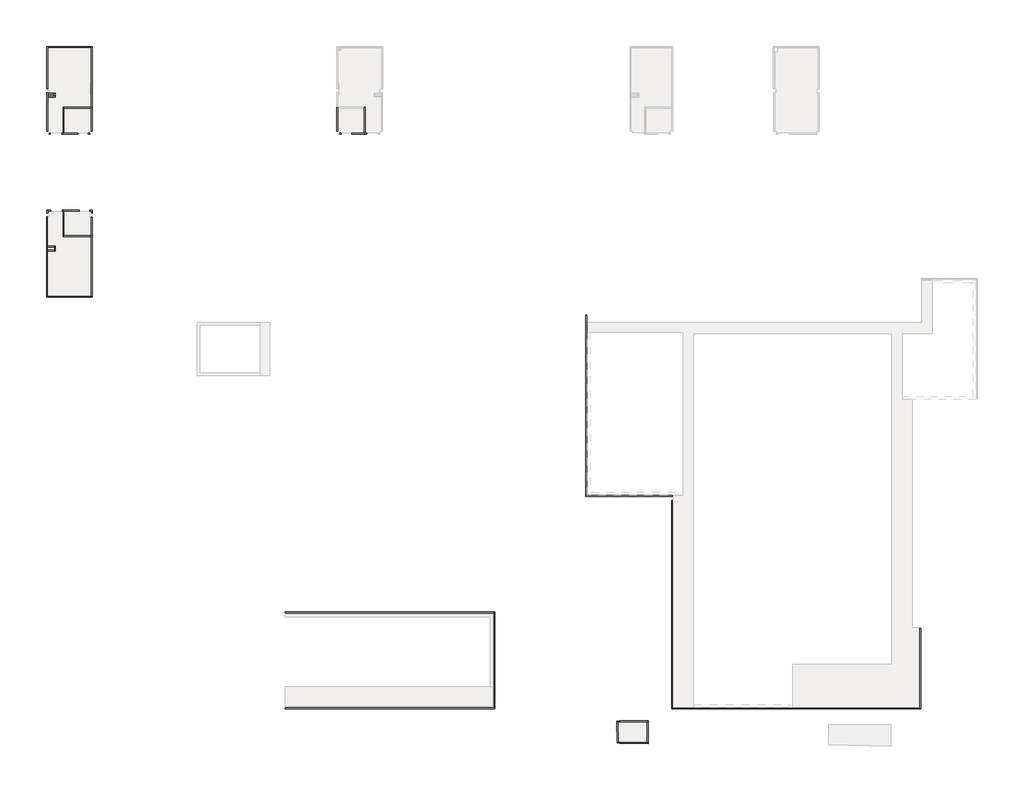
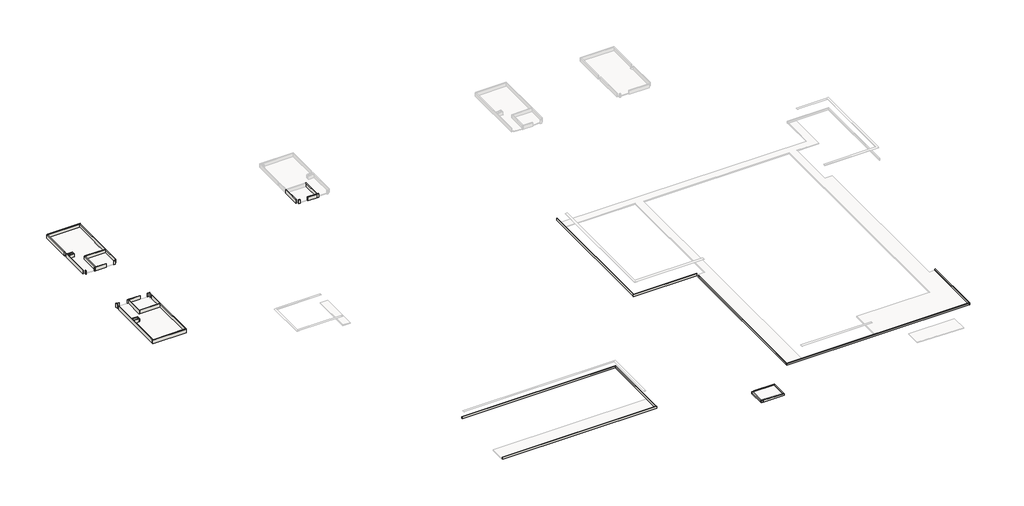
# One storey, part 1 of 2: 48 walls.
"""IFC4 building model written with IfcOpenShell, lengths in millimetres."""

import ifcopenshell
import ifcopenshell.guid

model = None  # the IFC model being written
_history = None  # IfcOwnerHistory: only IFC2X3 demands one
_inside = {}  # id of a spatial element -> (the spatial element, [elements in it])
_under = {}  # id of a project, library or spatial element -> (it, [spatial elements below it])
_declared = {}  # id of a project -> (the project, [libraries it declares])
_typed = {}  # id of a type object -> (the type object, [elements of that type])
_made_of = {}  # id of a material, layer set ... -> (it, [elements and type objects made of it])


def new_model(schema):
    """Start an empty IFC model of exactly this schema.

    Asked for "IFC4X3", IfcOpenShell would pick the latest addendum, in which some entities
    have other attributes; the version numbers below select the first issue.
    IFC2X3 requires an IfcOwnerHistory on every rooted entity: one is made here for all.
    """
    global model, _history
    if schema == "IFC4X3":
        model = ifcopenshell.file(schema_version=(4, 3, 0, 0))
    else:
        model = ifcopenshell.file(schema=schema)
    _inside.clear()
    _under.clear()
    _declared.clear()
    _typed.clear()
    _made_of.clear()
    _history = None
    if model.schema == "IFC2X3":
        org = make("IfcOrganization", Name="unknown")
        user = make(
            "IfcPersonAndOrganization",
            ThePerson=make("IfcPerson", FamilyName="unknown"),
            TheOrganization=org,
        )
        app = make(
            "IfcApplication",
            ApplicationDeveloper=org,
            Version="unknown",
            ApplicationFullName="unknown",
            ApplicationIdentifier="unknown",
        )
        _history = make(
            "IfcOwnerHistory",
            OwningUser=user,
            OwningApplication=app,
            ChangeAction="ADDED",
            CreationDate=0,
        )
    return model


def make(cls, **values):
    """One entity of the class cls with the attributes given. An attribute that is None is left unset."""
    return model.create_entity(
        cls, **{name: value for name, value in values.items() if value is not None}
    )


def rooted(cls, **values):
    """An entity with a GlobalId (a new one), such as an element, a storey or a relation."""
    return make(cls, GlobalId=ifcopenshell.guid.new(), OwnerHistory=_history, **values)


def si_unit(unit_type, name, prefix=None):
    """IfcSIUnit, for example si_unit("LENGTHUNIT", "METRE", prefix="MILLI")."""
    return make("IfcSIUnit", UnitType=unit_type, Prefix=prefix, Name=name)


def assignment(units):
    """IfcUnitAssignment: the units of a project."""
    return None if units is None else make("IfcUnitAssignment", Units=units)


def point(xyz):
    """IfcCartesianPoint."""
    return None if xyz is None else make("IfcCartesianPoint", Coordinates=xyz)


def direction(xyz):
    """IfcDirection."""
    return None if xyz is None else make("IfcDirection", DirectionRatios=xyz)


def frame(location, z_axis=None, x_axis=None):
    """IfcAxis2Placement3D, a coordinate frame: its origin and axes. An axis left out is left unset."""
    return make(
        "IfcAxis2Placement3D",
        Location=point(location),
        Axis=direction(z_axis),
        RefDirection=direction(x_axis),
    )


def origin():
    """The frame at (0, 0, 0) with its axes left unset."""
    return frame((0.0, 0.0, 0.0))


def place(relative_to, where):
    """IfcLocalPlacement: puts the frame where relative to a parent placement (None: the world)."""
    return make(
        "IfcLocalPlacement", PlacementRelTo=relative_to, RelativePlacement=where
    )


def context(
    kind, dimensions, precision=None, world=None, true_north=None, identifier=None
):
    """IfcGeometricRepresentationContext, for example the 3D "Model" context."""
    return make(
        "IfcGeometricRepresentationContext",
        ContextIdentifier=identifier,
        ContextType=kind,
        CoordinateSpaceDimension=dimensions,
        Precision=precision,
        WorldCoordinateSystem=world,
        TrueNorth=true_north,
    )


def project(units=None, contexts=None):
    """IfcProject with its units and contexts."""
    return rooted(
        "IfcProject",
        Name="project",
        RepresentationContexts=contexts,
        UnitsInContext=assignment(units),
    )


def spatial(cls, under=None, at=None, **own):
    """A site, building, storey or space (cls), placed at a placement, below another one or the project."""
    s = rooted(cls, ObjectPlacement=at, **own)
    if under is not None:
        _under.setdefault(under.id(), (under, []))[1].append(s)
    return s


def polyline(points):
    """IfcPolyline through the points."""
    return make("IfcPolyline", Points=[point(p) for p in points])


def outline(outer, holes=None, kind="AREA"):
    """IfcArbitraryClosedProfileDef: a profile drawn as a closed curve; with holes, ...WithVoids."""
    if holes is None:
        return make("IfcArbitraryClosedProfileDef", ProfileType=kind, OuterCurve=outer)
    return make(
        "IfcArbitraryProfileDefWithVoids",
        ProfileType=kind,
        OuterCurve=outer,
        InnerCurves=holes,
    )


def extrude(swept, where, along, depth):
    """IfcExtrudedAreaSolid: the profile swept, set in the frame where, extruded along a direction by depth."""
    return make(
        "IfcExtrudedAreaSolid",
        SweptArea=swept,
        Position=where,
        ExtrudedDirection=direction(along),
        Depth=depth,
    )


def faces_of(points, faces, orient=None, outer=None):
    """IfcFace entities. A face is a list of loops; a loop is a list of indices into points, from 0.

    orient and outer hold one flag for each loop. By default every Orientation is true, the
    first loop of a face is its IfcFaceOuterBound and the others are IfcFaceBound.
    """
    made = []
    for i, loops in enumerate(faces):
        bounds = []
        for j, loop in enumerate(loops):
            is_outer = j == 0 if outer is None else outer[i][j]
            bounds.append(
                make(
                    "IfcFaceOuterBound" if is_outer else "IfcFaceBound",
                    Bound=make("IfcPolyLoop", Polygon=[points[k] for k in loop]),
                    Orientation=True if orient is None else orient[i][j],
                )
            )
        made.append(make("IfcFace", Bounds=bounds))
    return made


def faceted_brep(points, faces, orient=None, outer=None, voids=None):
    """IfcFacetedBrep: a solid bounded by flat faces; with voids (closed shells), ...WithVoids."""
    shared = [point(p) for p in points]
    hull = make("IfcClosedShell", CfsFaces=faces_of(shared, faces, orient, outer))
    if voids is None:
        return make("IfcFacetedBrep", Outer=hull)
    return make(
        "IfcFacetedBrepWithVoids",
        Outer=hull,
        Voids=[
            make(cls, CfsFaces=faces_of(shared, fs, o, b)) for cls, fs, o, b in voids
        ],
    )


def shape(context_of_items, identifier, shape_type, items):
    """IfcShapeRepresentation: the items that make up one representation, for example the "Body"."""
    return make(
        "IfcShapeRepresentation",
        ContextOfItems=context_of_items,
        RepresentationIdentifier=identifier,
        RepresentationType=shape_type,
        Items=items,
    )


def made_of(thing, what):
    """Note that an element or type object is made of a material, layer set ...; save() writes the relation."""
    if what is not None:
        _made_of.setdefault(what.id(), (what, []))[1].append(thing)
    return thing


def element(
    cls,
    number,
    at=None,
    inside=None,
    cuts=None,
    type_object=None,
    material=None,
    context=None,
    identifier="Body",
    shape_type=None,
    held_by="IfcProductDefinitionShape",
    body=None,
    shapes=None,
    **own,
):
    """One element of the class cls, such as IfcWall. Its Tag is "e" and its number.

    at: its placement. inside: the storey or other place that contains it. cuts: it is an
    opening in that element (IfcRelVoidsElement). A single representation is given by context,
    identifier, shape_type and body (its items); several are given by shapes. held_by: the class
    of the entity that holds the representations. save() writes the other relations.
    """
    e = rooted(cls, Tag="e%d" % number, ObjectPlacement=at, **own)
    if body is not None:
        shapes = [shape(context, identifier, shape_type, body)]
    if shapes is not None:
        e.Representation = make(held_by, Representations=shapes)
    if inside is not None:
        _inside.setdefault(inside.id(), (inside, []))[1].append(e)
    if cuts is not None:
        rooted(
            "IfcRelVoidsElement", RelatingBuildingElement=cuts, RelatedOpeningElement=e
        )
    if type_object is not None:
        _typed.setdefault(type_object.id(), (type_object, []))[1].append(e)
    return made_of(e, material)


def aggregate(whole, parts):
    """IfcRelAggregates: a whole, such as a stair, and the parts it consists of."""
    return rooted("IfcRelAggregates", RelatingObject=whole, RelatedObjects=parts)


def save(model, path):
    """Write the relations noted so far, then the file.

    IfcRelAggregates (storeys below a building ...), IfcRelContainedInSpatialStructure (elements
    in a storey), IfcRelDefinesByType, IfcRelAssociatesMaterial and IfcRelDeclares: one each for
    every whole, place, type object, material and project.
    """
    for whole, parts in _under.values():
        aggregate(whole, parts)
    for where, things in _inside.values():
        rooted(
            "IfcRelContainedInSpatialStructure",
            RelatedElements=things,
            RelatingStructure=where,
        )
    for kind, things in _typed.values():
        rooted("IfcRelDefinesByType", RelatedObjects=things, RelatingType=kind)
    for what, things in _made_of.values():
        rooted("IfcRelAssociatesMaterial", RelatedObjects=things, RelatingMaterial=what)
    for by, libraries in _declared.values():
        rooted("IfcRelDeclares", RelatingContext=by, RelatedDefinitions=libraries)
    model.write(path)


model = new_model("IFC4")

# Units and contexts
model_context = context("Model", 3, world=origin())
ifc_project = project(units=[si_unit("LENGTHUNIT", "METRE", prefix="MILLI")], contexts=[model_context])

# Site, building, storey
site = spatial("IfcSite", under=ifc_project)
building = spatial("IfcBuilding", under=site)
storey = spatial("IfcBuildingStorey", under=building, Name="PLANTA DE IMPERMEABILIZAÇÃO - 1° PAV.", Elevation=55900.0)

# Walls
placement = place(None, origin())
element("IfcWall", 1, ObjectType="Áreas frias", at=placement, inside=storey, context=model_context, shape_type="Brep", body=[
    faceted_brep([(-45007.0467035, 28604.3823991, 55900.0), (-41564.549875, 28604.3823991, 55900.0), (-41499.549875, 28604.3823991, 55900.0), (-41499.549875, 28604.3823991, 56300.0), (-41564.549875, 28604.3823991, 56300.0), (-45007.0467035, 28604.3823991, 56300.0), (-45007.0467035, 28669.3823991, 55900.0), (-45007.0467035, 28669.3823991, 56300.0), (-41499.549875, 28669.3823991, 56300.0), (-41499.549875, 28669.3823991, 55900.0), (-45007.0467035, 28668.7226891, 55900.0), (-45007.0467035, 28668.7226891, 56300.0)], [[[0, 1, 2, 3, 4, 5]], [[6, 7, 8, 9]], [[2, 1, 0, 10, 6, 9]], [[5, 4, 3, 8, 7, 11]], [[3, 2, 9, 8]], [[0, 5, 11, 7, 6, 10]]]),
])
element("IfcWall", 2, ObjectType="Áreas frias", at=placement, inside=storey, context=model_context, shape_type="Brep", body=[
    faceted_brep([(-41564.549875, 28604.3823991, 55900.0), (-41564.549875, 23914.3823991, 55900.0), (-41564.549875, 23881.8823991, 55900.0), (-41564.549875, 23881.8823991, 56300.0), (-41564.549875, 23914.3823991, 56300.0), (-41564.549875, 28604.3823991, 56300.0), (-41499.549875, 28604.3823991, 55900.0), (-41499.549875, 28604.3823991, 56300.0), (-41499.549875, 23881.8823991, 56300.0), (-41499.549875, 23881.8823991, 55900.0)], [[[0, 1, 2, 3, 4, 5]], [[6, 7, 8, 9]], [[2, 1, 0, 6, 9]], [[3, 2, 9, 8]], [[5, 4, 3, 8, 7]], [[0, 5, 7, 6]]]),
])
element("IfcWall", 3, ObjectType="Áreas frias", at=placement, inside=storey, context=model_context, shape_type="SweptSolid", body=[
    extrude(outline(polyline([(-41831.0467035, 21873.9418221), (-41706.0467035, 21873.9418221), (-41706.0467035, 21808.9418221), (-41831.0467035, 21808.9418221), (-41831.0467035, 21873.9418221)])), frame((0.0, 0.0, 55900.0), z_axis=(0.0, 0.0, 1.0), x_axis=(1.0, 0.0, 0.0)), (0.0, 0.0, 1.0), 400.0),
])
element("IfcWall", 4, ObjectType="Áreas frias", at=placement, inside=storey, context=model_context, shape_type="Brep", body=[
    faceted_brep([(-42651.0467035, 21869.3823991, 55900.0), (-43727.9504459, 21869.3823991, 55900.0), (-43769.549875, 21869.3823991, 55900.0), (-43769.549875, 21869.3823991, 56300.0), (-43727.9504459, 21869.3823991, 56300.0), (-42651.0467035, 21869.3823991, 56300.0), (-42651.0467035, 21804.3823991, 55900.0), (-42651.0467035, 21804.3823991, 56300.0), (-43769.549875, 21804.3823991, 56300.0), (-43769.549875, 21804.3823991, 55900.0)], [[[0, 1, 2, 3, 4, 5]], [[6, 7, 8, 9]], [[2, 1, 0, 6, 9]], [[3, 2, 9, 8]], [[5, 4, 3, 8, 7]], [[0, 5, 7, 6]]]),
])
element("IfcWall", 5, ObjectType="Áreas frias", at=placement, inside=storey, context=model_context, shape_type="Brep", body=[
    faceted_brep([(-43727.9504459, 21869.3823991, 55900.0), (-43727.9504459, 23849.3823991, 55900.0), (-43727.9504459, 23914.3823991, 55900.0), (-43727.9504459, 23914.3823991, 56300.0), (-43727.9504459, 23849.3823991, 56300.0), (-43727.9504459, 21869.3823991, 56300.0), (-43792.9504459, 21869.3823991, 55900.0), (-43792.9504459, 21869.3823991, 56300.0), (-43792.9504459, 23914.3823991, 56300.0), (-43792.9504459, 23914.3823991, 55900.0), (-43769.549875, 21869.3823991, 55900.0), (-43769.549875, 21869.3823991, 56300.0)], [[[0, 1, 2, 3, 4, 5]], [[6, 7, 8, 9]], [[2, 1, 0, 10, 6, 9]], [[5, 4, 3, 8, 7, 11]], [[0, 5, 11, 7, 6, 10]], [[3, 2, 9, 8]]]),
])
element("IfcWall", 6, ObjectType="Áreas frias", at=placement, inside=storey, context=model_context, shape_type="Brep", body=[
    faceted_brep([(-43727.9504459, 23849.3823991, 55900.0), (-41564.549875, 23849.3823991, 55900.0), (-41564.549875, 23849.3823991, 56300.0), (-43727.9504459, 23849.3823991, 56300.0), (-43727.9504459, 23914.3823991, 55900.0), (-43727.9504459, 23914.3823991, 56300.0), (-41564.549875, 23914.3823991, 56300.0), (-41564.549875, 23914.3823991, 55900.0), (-41564.549875, 23881.8823991, 55900.0), (-41564.549875, 23881.8823991, 56300.0)], [[[0, 1, 2, 3]], [[4, 5, 6, 7]], [[1, 0, 4, 7, 8]], [[3, 2, 9, 6, 5]], [[0, 3, 5, 4]], [[2, 1, 8, 7, 6, 9]]]),
])
element("IfcWall", 7, ObjectType="Áreas frias", at=placement, inside=storey, context=model_context, shape_type="SweptSolid", body=[
    extrude(outline(polyline([(-44869.2485747, 21869.3823991), (-44789.2485747, 21869.3823991), (-44789.2485747, 21804.3823991), (-44869.2485747, 21804.3823991), (-44869.2485747, 21869.3823991)])), frame((0.0, 0.0, 55900.0), z_axis=(0.0, 0.0, 1.0), x_axis=(1.0, 0.0, 0.0)), (0.0, 0.0, 1.0), 400.0),
])
element("IfcWall", 8, ObjectType="Áreas frias", at=placement, inside=storey, context=model_context, shape_type="SweptSolid", body=[
    extrude(outline(polyline([(-45007.0467035, 25054.7226891), (-45007.0467035, 22015.4418221), (-45072.0467035, 22015.4418221), (-45072.0467035, 25054.7226891), (-45007.0467035, 25054.7226891)])), frame((0.0, 0.0, 55900.0), z_axis=(0.0, 0.0, 1.0), x_axis=(1.0, 0.0, 0.0)), (0.0, 0.0, 1.0), 400.0),
])
element("IfcWall", 9, ObjectType="Áreas frias", at=placement, inside=storey, context=model_context, shape_type="Brep", body=[
    faceted_brep([(-45072.0467035, 28668.7226891, 55900.0), (-45072.0467035, 25348.7226891, 55900.0), (-45072.0467035, 25348.7226891, 56300.0), (-45072.0467035, 28668.7226891, 56300.0), (-45007.0467035, 28668.7226891, 55900.0), (-45007.0467035, 28668.7226891, 56300.0), (-45007.0467035, 28604.3823991, 56300.0), (-45007.0467035, 25348.7226891, 56300.0), (-45007.0467035, 25348.7226891, 55900.0), (-45007.0467035, 28604.3823991, 55900.0)], [[[0, 1, 2, 3]], [[4, 5, 6, 7, 8, 9]], [[1, 0, 4, 9, 8]], [[2, 1, 8, 7]], [[3, 2, 7, 6, 5]], [[0, 3, 5, 4]]]),
])
element("IfcWall", 10, ObjectType="Áreas frias", at=placement, inside=storey, context=model_context, shape_type="Brep", body=[
    faceted_brep([(-41499.549875, 9067.7823991, 55900.0), (-41564.549875, 9067.7823991, 55900.0), (-45022.049875, 9067.7823991, 55900.0), (-45087.049875, 9067.7823991, 55900.0), (-45087.049875, 9067.7823991, 56300.0), (-45022.049875, 9067.7823991, 56300.0), (-41564.549875, 9067.7823991, 56300.0), (-41499.549875, 9067.7823991, 56300.0), (-41499.549875, 9002.7823991, 55900.0), (-41499.549875, 9002.7823991, 56300.0), (-45087.049875, 9002.7823991, 56300.0), (-45087.049875, 9002.7823991, 55900.0)], [[[0, 1, 2, 3, 4, 5, 6, 7]], [[8, 9, 10, 11]], [[3, 2, 1, 0, 8, 11]], [[7, 6, 5, 4, 10, 9]], [[4, 3, 11, 10]], [[0, 7, 9, 8]]]),
])
element("IfcWall", 11, ObjectType="Áreas frias", at=placement, inside=storey, context=model_context, shape_type="SweptSolid", body=[
    extrude(outline(polyline([(-45022.049875, 15311.8823991), (-45022.049875, 9067.7823991), (-45087.049875, 9067.7823991), (-45087.049875, 15311.8823991), (-45022.049875, 15311.8823991)])), frame((0.0, 0.0, 55900.0), z_axis=(0.0, 0.0, 1.0), x_axis=(1.0, 0.0, 0.0)), (0.0, 0.0, 1.0), 400.0),
])
element("IfcWall", 12, ObjectType="Áreas frias", at=placement, inside=storey, context=model_context, shape_type="Brep", body=[
    faceted_brep([(-45009.549875, 15611.8823991, 55900.0), (-45009.549875, 15774.3823991, 55900.0), (-45009.549875, 15839.3823991, 55900.0), (-45009.549875, 15839.3823991, 56300.0), (-45009.549875, 15774.3823991, 56300.0), (-45009.549875, 15611.8823991, 56300.0), (-45074.549875, 15611.8823991, 55900.0), (-45074.549875, 15611.8823991, 56300.0), (-45074.549875, 15839.3823991, 56300.0), (-45074.549875, 15839.3823991, 55900.0)], [[[0, 1, 2, 3, 4, 5]], [[6, 7, 8, 9]], [[2, 1, 0, 6, 9]], [[5, 4, 3, 8, 7]], [[0, 5, 7, 6]], [[3, 2, 9, 8]]]),
])
element("IfcWall", 13, ObjectType="Áreas frias", at=placement, inside=storey, context=model_context, shape_type="SweptSolid", body=[
    extrude(outline(polyline([(-44774.549875, 15774.3823991), (-45009.549875, 15774.3823991), (-45009.549875, 15839.3823991), (-44774.549875, 15839.3823991), (-44774.549875, 15774.3823991)])), frame((0.0, 0.0, 55900.0), z_axis=(0.0, 0.0, 1.0), x_axis=(1.0, 0.0, 0.0)), (0.0, 0.0, 1.0), 400.0),
])
element("IfcWall", 14, ObjectType="Áreas frias", at=placement, inside=storey, context=model_context, shape_type="Brep", body=[
    faceted_brep([(-43874.549875, 15774.3823991, 55900.0), (-43792.9504459, 15774.3823991, 55900.0), (-43760.4504459, 15774.3823991, 55900.0), (-43760.4504459, 15774.3823991, 56300.0), (-43792.9504459, 15774.3823991, 56300.0), (-43874.549875, 15774.3823991, 56300.0), (-43874.549875, 15839.3823991, 55900.0), (-43874.549875, 15839.3823991, 56300.0), (-43760.4504459, 15839.3823991, 56300.0), (-43760.4504459, 15839.3823991, 55900.0)], [[[0, 1, 2, 3, 4, 5]], [[6, 7, 8, 9]], [[2, 1, 0, 6, 9]], [[3, 2, 9, 8]], [[5, 4, 3, 8, 7]], [[0, 5, 7, 6]]]),
])
element("IfcWall", 15, ObjectType="Áreas frias", at=placement, inside=storey, context=model_context, shape_type="Brep", body=[
    faceted_brep([(-43792.9504459, 15774.3823991, 55900.0), (-43792.9504459, 13765.2823991, 55900.0), (-43792.9504459, 13765.2823991, 56300.0), (-43792.9504459, 15774.3823991, 56300.0), (-43727.9504459, 15774.3823991, 55900.0), (-43727.9504459, 15774.3823991, 56300.0), (-43727.9504459, 13830.2823991, 56300.0), (-43727.9504459, 13765.2823991, 56300.0), (-43727.9504459, 13765.2823991, 55900.0), (-43727.9504459, 13830.2823991, 55900.0), (-43760.4504459, 15774.3823991, 55900.0), (-43760.4504459, 15774.3823991, 56300.0)], [[[0, 1, 2, 3]], [[4, 5, 6, 7, 8, 9]], [[1, 0, 10, 4, 9, 8]], [[3, 2, 7, 6, 5, 11]], [[0, 3, 11, 5, 4, 10]], [[2, 1, 8, 7]]]),
])
element("IfcWall", 16, ObjectType="Áreas frias", at=placement, inside=storey, context=model_context, shape_type="Brep", body=[
    faceted_brep([(-43727.9504459, 13765.2823991, 55900.0), (-41564.549875, 13765.2823991, 55900.0), (-41564.549875, 13765.2823991, 56300.0), (-43727.9504459, 13765.2823991, 56300.0), (-43727.9504459, 13830.2823991, 55900.0), (-43727.9504459, 13830.2823991, 56300.0), (-41564.549875, 13830.2823991, 56300.0), (-41564.549875, 13830.2823991, 55900.0), (-41564.549875, 13797.7823991, 55900.0), (-41564.549875, 13797.7823991, 56300.0)], [[[0, 1, 2, 3]], [[4, 5, 6, 7]], [[1, 0, 4, 7, 8]], [[3, 2, 9, 6, 5]], [[0, 3, 5, 4]], [[2, 1, 8, 7, 6, 9]]]),
])
element("IfcWall", 17, ObjectType="Áreas frias", at=placement, inside=storey, context=model_context, shape_type="Brep", body=[
    faceted_brep([(-41704.549875, 15774.3823991, 55900.0), (-41552.049875, 15774.3823991, 55900.0), (-41487.049875, 15774.3823991, 55900.0), (-41487.049875, 15774.3823991, 56300.0), (-41552.049875, 15774.3823991, 56300.0), (-41704.549875, 15774.3823991, 56300.0), (-41704.549875, 15839.3823991, 55900.0), (-41704.549875, 15839.3823991, 56300.0), (-41487.049875, 15839.3823991, 56300.0), (-41487.049875, 15839.3823991, 55900.0)], [[[0, 1, 2, 3, 4, 5]], [[6, 7, 8, 9]], [[2, 1, 0, 6, 9]], [[5, 4, 3, 8, 7]], [[0, 5, 7, 6]], [[3, 2, 9, 8]]]),
])
element("IfcWall", 18, ObjectType="Áreas frias", at=placement, inside=storey, context=model_context, shape_type="SweptSolid", body=[
    extrude(outline(polyline([(-41552.049875, 15611.8823991), (-41552.049875, 15774.3823991), (-41487.049875, 15774.3823991), (-41487.049875, 15611.8823991), (-41552.049875, 15611.8823991)])), frame((0.0, 0.0, 55900.0), z_axis=(0.0, 0.0, 1.0), x_axis=(1.0, 0.0, 0.0)), (0.0, 0.0, 1.0), 400.0),
])
element("IfcWall", 19, ObjectType="Áreas frias", at=placement, inside=storey, context=model_context, shape_type="Brep", body=[
    faceted_brep([(-41564.549875, 15306.8823991, 55900.0), (-41564.549875, 13830.2823991, 55900.0), (-41564.549875, 13797.7823991, 55900.0), (-41564.549875, 13797.7823991, 56300.0), (-41564.549875, 13830.2823991, 56300.0), (-41564.549875, 15306.8823991, 56300.0), (-41499.549875, 15306.8823991, 55900.0), (-41499.549875, 15306.8823991, 56300.0), (-41499.549875, 13797.7823991, 56300.0), (-41499.549875, 13797.7823991, 55900.0)], [[[0, 1, 2, 3, 4, 5]], [[6, 7, 8, 9]], [[2, 1, 0, 6, 9]], [[3, 2, 9, 8]], [[5, 4, 3, 8, 7]], [[0, 5, 7, 6]]]),
])
element("IfcWall", 20, ObjectType="Áreas frias", at=placement, inside=storey, context=model_context, shape_type="Brep", body=[
    faceted_brep([(-19968.5467035, 21869.3823991, 55900.0), (-20095.0498031, 21869.3823991, 55900.0), (-20127.5498031, 21869.3823991, 55900.0), (-20127.5498031, 21869.3823991, 56300.0), (-20095.0498031, 21869.3823991, 56300.0), (-19968.5467035, 21869.3823991, 56300.0), (-19968.5467035, 21804.3823991, 55900.0), (-19968.5467035, 21804.3823991, 56300.0), (-20127.5498031, 21804.3823991, 56300.0), (-20127.5498031, 21804.3823991, 55900.0)], [[[0, 1, 2, 3, 4, 5]], [[6, 7, 8, 9]], [[2, 1, 0, 6, 9]], [[3, 2, 9, 8]], [[5, 4, 3, 8, 7]], [[0, 5, 7, 6]]]),
])
element("IfcWall", 21, ObjectType="Áreas frias", at=placement, inside=storey, context=model_context, shape_type="SweptSolid", body=[
    extrude(outline(polyline([(-22100.5467035, 21869.3823991), (-21975.5467035, 21869.3823991), (-21975.5467035, 21804.3823991), (-22100.5467035, 21804.3823991), (-22100.5467035, 21869.3823991)])), frame((0.0, 0.0, 55900.0), z_axis=(0.0, 0.0, 1.0), x_axis=(1.0, 0.0, 0.0)), (0.0, 0.0, 1.0), 400.0),
])
element("IfcWall", 22, ObjectType="Áreas frias", at=placement, inside=storey, context=model_context, shape_type="Brep", body=[
    faceted_brep([(-22247.049875, 22016.4418221, 55900.0), (-22247.049875, 23849.3823991, 55900.0), (-22247.049875, 23881.8823991, 55900.0), (-22247.049875, 23881.8823991, 56300.0), (-22247.049875, 23849.3823991, 56300.0), (-22247.049875, 22016.4418221, 56300.0), (-22312.049875, 22016.4418221, 55900.0), (-22312.049875, 22016.4418221, 56300.0), (-22312.049875, 23881.8823991, 56300.0), (-22312.049875, 23881.8823991, 55900.0)], [[[0, 1, 2, 3, 4, 5]], [[6, 7, 8, 9]], [[2, 1, 0, 6, 9]], [[3, 2, 9, 8]], [[5, 4, 3, 8, 7]], [[0, 5, 7, 6]]]),
])
element("IfcWall", 23, ObjectType="Áreas frias", at=placement, inside=storey, context=model_context, shape_type="Brep", body=[
    faceted_brep([(-20095.0498031, 21869.3823991, 55900.0), (-20095.0498031, 23914.3823991, 55900.0), (-20095.0498031, 23914.3823991, 56300.0), (-20095.0498031, 21869.3823991, 56300.0), (-20160.0498031, 21869.3823991, 55900.0), (-20160.0498031, 21869.3823991, 56300.0), (-20160.0498031, 23849.3823991, 56300.0), (-20160.0498031, 23914.3823991, 56300.0), (-20160.0498031, 23914.3823991, 55900.0), (-20160.0498031, 23849.3823991, 55900.0), (-20127.5498031, 21869.3823991, 55900.0), (-20127.5498031, 21869.3823991, 56300.0)], [[[0, 1, 2, 3]], [[4, 5, 6, 7, 8, 9]], [[1, 0, 10, 4, 9, 8]], [[3, 2, 7, 6, 5, 11]], [[0, 3, 11, 5, 4, 10]], [[2, 1, 8, 7]]]),
])
element("IfcWall", 24, ObjectType="Áreas frias", at=placement, inside=storey, context=model_context, shape_type="Brep", body=[
    faceted_brep([(-26358.2096659, -23282.9176009, 55900.0), (-9925.7096659, -23282.9176009, 55900.0), (-9925.7096659, -23282.9176009, 56100.0), (-26358.2096659, -23282.9176009, 56100.0), (-26358.2096659, -23217.9176009, 55900.0), (-26358.2096659, -23217.9176009, 56100.0), (-9990.7096659, -23217.9176009, 56100.0), (-9925.7096659, -23217.9176009, 56100.0), (-9925.7096659, -23217.9176009, 55900.0), (-9990.7096659, -23217.9176009, 55900.0)], [[[0, 1, 2, 3]], [[4, 5, 6, 7, 8, 9]], [[1, 0, 4, 9, 8]], [[3, 2, 7, 6, 5]], [[0, 3, 5, 4]], [[2, 1, 8, 7]]]),
])
element("IfcWall", 25, ObjectType="Áreas frias", at=placement, inside=storey, context=model_context, shape_type="Brep", body=[
    faceted_brep([(-9925.7096659, -23217.9176009, 55900.0), (-9925.7096659, -15697.9176009, 55900.0), (-9925.7096659, -15697.9176009, 56100.0), (-9925.7096659, -23217.9176009, 56100.0), (-9990.7096659, -23217.9176009, 55900.0), (-9990.7096659, -23217.9176009, 56100.0), (-9990.7096659, -15762.9176009, 56100.0), (-9990.7096659, -15697.9176009, 56100.0), (-9990.7096659, -15697.9176009, 55900.0), (-9990.7096659, -15762.9176009, 55900.0)], [[[0, 1, 2, 3]], [[4, 5, 6, 7, 8, 9]], [[1, 0, 4, 9, 8]], [[3, 2, 7, 6, 5]], [[0, 3, 5, 4]], [[2, 1, 8, 7]]]),
])
element("IfcWall", 26, ObjectType="Áreas frias", at=placement, inside=storey, context=model_context, shape_type="SweptSolid", body=[
    extrude(outline(polyline([(-26358.2096659, -15697.9176009), (-9990.7096659, -15697.9176009), (-9990.7096659, -15762.9176009), (-26358.2096659, -15762.9176009), (-26358.2096659, -15697.9176009)])), frame((0.0, 0.0, 55900.0), z_axis=(0.0, 0.0, 1.0), x_axis=(1.0, 0.0, 0.0)), (0.0, 0.0, 1.0), 200.0),
])
element("IfcWall", 27, ObjectType="Áreas frias", at=placement, inside=storey, context=model_context, shape_type="Brep", body=[
    faceted_brep([(23411.950125, -16975.6176009, 55900.0), (23411.950125, -23243.1176009, 55900.0), (23411.950125, -23308.1176009, 55900.0), (23411.950125, -23308.1176009, 56100.0), (23411.950125, -23243.1176009, 56100.0), (23411.950125, -16975.6176009, 56100.0), (23476.950125, -16975.6176009, 55900.0), (23476.950125, -16975.6176009, 56100.0), (23476.950125, -23308.1176009, 56100.0), (23476.950125, -23308.1176009, 55900.0)], [[[0, 1, 2, 3, 4, 5]], [[6, 7, 8, 9]], [[2, 1, 0, 6, 9]], [[5, 4, 3, 8, 7]], [[0, 5, 7, 6]], [[3, 2, 9, 8]]]),
])
element("IfcWall", 28, ObjectType="Áreas frias", at=placement, inside=storey, context=model_context, shape_type="Brep", body=[
    faceted_brep([(23411.950125, -23243.1176009, 55900.0), (3996.950125, -23243.1176009, 55900.0), (3931.950125, -23243.1176009, 55900.0), (3931.950125, -23243.1176009, 56100.0), (3996.950125, -23243.1176009, 56100.0), (23411.950125, -23243.1176009, 56100.0), (23411.950125, -23308.1176009, 55900.0), (23411.950125, -23308.1176009, 56100.0), (3931.950125, -23308.1176009, 56100.0), (3931.950125, -23308.1176009, 55900.0)], [[[0, 1, 2, 3, 4, 5]], [[6, 7, 8, 9]], [[2, 1, 0, 6, 9]], [[5, 4, 3, 8, 7]], [[0, 5, 7, 6]], [[3, 2, 9, 8]]]),
])
element("IfcWall", 29, ObjectType="Áreas frias", at=placement, inside=storey, context=model_context, shape_type="SweptSolid", body=[
    extrude(outline(polyline([(3996.950125, -6955.6176009), (3996.950125, -23243.1176009), (3931.950125, -23243.1176009), (3931.950125, -6955.6176009), (3996.950125, -6955.6176009)])), frame((0.0, 0.0, 55900.0), z_axis=(0.0, 0.0, 1.0), x_axis=(1.0, 0.0, 0.0)), (0.0, 0.0, 1.0), 200.0),
])
element("IfcWall", 30, ObjectType="Áreas frias", at=placement, inside=storey, context=model_context, shape_type="Brep", body=[
    faceted_brep([(3985.250125, -6559.6176009, 55900.0), (-2722.249875, -6559.6176009, 55900.0), (-2787.249875, -6559.6176009, 55900.0), (-2787.249875, -6559.6176009, 56100.0), (-2722.249875, -6559.6176009, 56100.0), (3985.250125, -6559.6176009, 56100.0), (3985.250125, -6624.6176009, 55900.0), (3985.250125, -6624.6176009, 56100.0), (-2787.249875, -6624.6176009, 56100.0), (-2787.249875, -6624.6176009, 55900.0)], [[[0, 1, 2, 3, 4, 5]], [[6, 7, 8, 9]], [[2, 1, 0, 6, 9]], [[5, 4, 3, 8, 7]], [[0, 5, 7, 6]], [[3, 2, 9, 8]]]),
])
element("IfcWall", 31, ObjectType="Áreas frias", at=placement, inside=storey, context=model_context, shape_type="SweptSolid", body=[
    extrude(outline(polyline([(-2722.249875, 7607.8823991), (-2722.249875, -6559.6176009), (-2787.249875, -6559.6176009), (-2787.249875, 7607.8823991), (-2722.249875, 7607.8823991)])), frame((0.0, 0.0, 55900.0), z_axis=(0.0, 0.0, 1.0), x_axis=(1.0, 0.0, 0.0)), (0.0, 0.0, 1.0), 200.0),
])
element("IfcWall", 32, ObjectType="Áreas frias", at=placement, inside=storey, context=model_context, shape_type="Brep", body=[
    faceted_brep([(-41564.549875, 13797.7823991, 55900.0), (-41564.549875, 13765.2823991, 55900.0), (-41564.549875, 9067.7823991, 55900.0), (-41564.549875, 9067.7823991, 56300.0), (-41564.549875, 13765.2823991, 56300.0), (-41564.549875, 13797.7823991, 56300.0), (-41499.549875, 13797.7823991, 55900.0), (-41499.549875, 13797.7823991, 56300.0), (-41499.549875, 9067.7823991, 56300.0), (-41499.549875, 9067.7823991, 55900.0)], [[[0, 1, 2, 3, 4, 5]], [[6, 7, 8, 9]], [[2, 1, 0, 6, 9]], [[5, 4, 3, 8, 7]], [[0, 5, 7, 6]], [[3, 2, 9, 8]]]),
])
element("IfcWall", 33, ObjectType="Áreas frias", at=placement, inside=storey, context=model_context, shape_type="Brep", body=[
    faceted_brep([(-43760.4504459, 15774.3823991, 55900.0), (-43727.9504459, 15774.3823991, 55900.0), (-42524.549875, 15774.3823991, 55900.0), (-42524.549875, 15774.3823991, 56300.0), (-43727.9504459, 15774.3823991, 56300.0), (-43760.4504459, 15774.3823991, 56300.0), (-43760.4504459, 15839.3823991, 55900.0), (-43760.4504459, 15839.3823991, 56300.0), (-42524.549875, 15839.3823991, 56300.0), (-42524.549875, 15839.3823991, 55900.0)], [[[0, 1, 2, 3, 4, 5]], [[6, 7, 8, 9]], [[2, 1, 0, 6, 9]], [[3, 2, 9, 8]], [[5, 4, 3, 8, 7]], [[0, 5, 7, 6]]]),
])
element("IfcWall", 34, ObjectType="Áreas frias", at=placement, inside=storey, context=model_context, shape_type="SweptSolid", body=[
    extrude(outline(polyline([(-43884.549875, 21869.3823991), (-43769.549875, 21869.3823991), (-43769.549875, 21804.3823991), (-43884.549875, 21804.3823991), (-43884.549875, 21869.3823991)])), frame((0.0, 0.0, 55900.0), z_axis=(0.0, 0.0, 1.0), x_axis=(1.0, 0.0, 0.0)), (0.0, 0.0, 1.0), 400.0),
])
element("IfcWall", 35, ObjectType="Áreas frias", at=placement, inside=storey, context=model_context, shape_type="Brep", body=[
    faceted_brep([(-41564.549875, 23881.8823991, 55900.0), (-41564.549875, 23849.3823991, 55900.0), (-41564.549875, 22016.8823991, 55900.0), (-41564.549875, 22016.8823991, 56300.0), (-41564.549875, 23849.3823991, 56300.0), (-41564.549875, 23881.8823991, 56300.0), (-41499.549875, 23881.8823991, 55900.0), (-41499.549875, 23881.8823991, 56300.0), (-41499.549875, 22016.8823991, 56300.0), (-41499.549875, 22016.8823991, 55900.0)], [[[0, 1, 2, 3, 4, 5]], [[6, 7, 8, 9]], [[2, 1, 0, 6, 9]], [[3, 2, 9, 8]], [[5, 4, 3, 8, 7]], [[0, 5, 7, 6]]]),
])
element("IfcWall", 36, ObjectType="Áreas frias", at=placement, inside=storey, context=model_context, shape_type="Brep", body=[
    faceted_brep([(-20127.5498031, 21869.3823991, 55900.0), (-20160.0498031, 21869.3823991, 55900.0), (-21155.5467035, 21869.3823991, 55900.0), (-21155.5467035, 21869.3823991, 56300.0), (-20160.0498031, 21869.3823991, 56300.0), (-20127.5498031, 21869.3823991, 56300.0), (-20127.5498031, 21804.3823991, 55900.0), (-20127.5498031, 21804.3823991, 56300.0), (-21155.5467035, 21804.3823991, 56300.0), (-21155.5467035, 21804.3823991, 55900.0)], [[[0, 1, 2, 3, 4, 5]], [[6, 7, 8, 9]], [[2, 1, 0, 6, 9]], [[3, 2, 9, 8]], [[5, 4, 3, 8, 7]], [[0, 5, 7, 6]]]),
])
element("IfcWall", 37, ObjectType="Áreas frias", at=placement, inside=storey, context=model_context, shape_type="Brep", body=[
    faceted_brep([(-44392.7841053, 12635.9841137, 55900.0), (-44392.7841053, 12995.9841137, 55900.0), (-44392.7841053, 12995.9841137, 56300.0), (-44392.7841053, 12635.9841137, 56300.0), (-44457.7841053, 12635.9841137, 55900.0), (-44457.7841053, 12635.9841137, 56300.0), (-44457.7841053, 12700.9841137, 56300.0), (-44457.7841053, 12930.9841137, 56300.0), (-44457.7841053, 12995.9841137, 56300.0), (-44457.7841053, 12995.9841137, 55900.0), (-44457.7841053, 12930.9841137, 55900.0), (-44457.7841053, 12700.9841137, 55900.0)], [[[0, 1, 2, 3]], [[4, 5, 6, 7, 8, 9, 10, 11]], [[1, 0, 4, 11, 10, 9]], [[3, 2, 8, 7, 6, 5]], [[2, 1, 9, 8]], [[0, 3, 5, 4]]]),
])
element("IfcWall", 38, ObjectType="Áreas frias", at=placement, inside=storey, context=model_context, shape_type="SweptSolid", body=[
    extrude(outline(polyline([(-44974.549875, 12995.9841137), (-44457.7841053, 12995.9841137), (-44457.7841053, 12930.9841137), (-44974.549875, 12930.9841137), (-44974.549875, 12995.9841137)])), frame((0.0, 0.0, 55900.0), z_axis=(0.0, 0.0, 1.0), x_axis=(1.0, 0.0, 0.0)), (0.0, 0.0, 1.0), 400.0),
])
element("IfcWall", 39, ObjectType="Áreas frias", at=placement, inside=storey, context=model_context, shape_type="SweptSolid", body=[
    extrude(outline(polyline([(-44975.2841053, 12700.9841137), (-44457.7841053, 12700.9841137), (-44457.7841053, 12635.9841137), (-44975.2841053, 12635.9841137), (-44975.2841053, 12700.9841137)])), frame((0.0, 0.0, 55900.0), z_axis=(0.0, 0.0, 1.0), x_axis=(1.0, 0.0, 0.0)), (0.0, 0.0, 1.0), 400.0),
])
element("IfcWall", 40, ObjectType="Áreas frias", at=placement, inside=storey, context=model_context, shape_type="Brep", body=[
    faceted_brep([(-44997.049875, 24719.3823991, 55900.0), (-44407.049875, 24719.3823991, 55900.0), (-44407.049875, 24719.3823991, 56300.0), (-44997.049875, 24719.3823991, 56300.0), (-44997.049875, 24784.3823991, 55900.0), (-44997.049875, 24784.3823991, 56300.0), (-44472.049875, 24784.3823991, 56300.0), (-44407.049875, 24784.3823991, 56300.0), (-44407.049875, 24784.3823991, 55900.0), (-44472.049875, 24784.3823991, 55900.0)], [[[0, 1, 2, 3]], [[4, 5, 6, 7, 8, 9]], [[1, 0, 4, 9, 8]], [[3, 2, 7, 6, 5]], [[0, 3, 5, 4]], [[2, 1, 8, 7]]]),
])
element("IfcWall", 41, ObjectType="Áreas frias", at=placement, inside=storey, context=model_context, shape_type="Brep", body=[
    faceted_brep([(-44407.049875, 24784.3823991, 55900.0), (-44407.049875, 25019.3823991, 55900.0), (-44407.049875, 25019.3823991, 56300.0), (-44407.049875, 24784.3823991, 56300.0), (-44472.049875, 24784.3823991, 55900.0), (-44472.049875, 24784.3823991, 56300.0), (-44472.049875, 24954.3823991, 56300.0), (-44472.049875, 25019.3823991, 56300.0), (-44472.049875, 25019.3823991, 55900.0), (-44472.049875, 24954.3823991, 55900.0)], [[[0, 1, 2, 3]], [[4, 5, 6, 7, 8, 9]], [[1, 0, 4, 9, 8]], [[3, 2, 7, 6, 5]], [[0, 3, 5, 4]], [[2, 1, 8, 7]]]),
])
element("IfcWall", 42, ObjectType="Áreas frias", at=placement, inside=storey, context=model_context, shape_type="SweptSolid", body=[
    extrude(outline(polyline([(-44972.049875, 25019.3823991), (-44472.049875, 25019.3823991), (-44472.049875, 24954.3823991), (-44972.049875, 24954.3823991), (-44972.049875, 25019.3823991)])), frame((0.0, 0.0, 55900.0), z_axis=(0.0, 0.0, 1.0), x_axis=(1.0, 0.0, 0.0)), (0.0, 0.0, 1.0), 400.0),
])
element("IfcWall", 43, ObjectType="Áreas frias", at=placement, inside=storey, context=model_context, shape_type="Brep", body=[
    faceted_brep([(2092.9532965, -25970.4094486, 54800.0), (2092.9532965, -24256.2885111, 54800.0), (2092.9532965, -24256.2885111, 55000.0), (2092.9532965, -25970.4094486, 55000.0), (2027.9532965, -25969.2748694, 54800.0), (2027.9532965, -25969.2748694, 55000.0), (2027.9532965, -24321.2885111, 55000.0), (2027.9532965, -24256.2885111, 55000.0), (2027.9532965, -24256.2885111, 54800.0), (2027.9532965, -24321.2885111, 54800.0)], [[[0, 1, 2, 3]], [[4, 5, 6, 7, 8, 9]], [[1, 0, 4, 9, 8]], [[3, 2, 7, 6, 5]], [[2, 1, 8, 7]], [[0, 3, 5, 4]]]),
])
element("IfcWall", 44, ObjectType="Áreas frias", at=placement, inside=storey, context=model_context, shape_type="Brep", body=[
    faceted_brep([(2027.9532965, -24256.2885111, 54800.0), (-129.8542434, -24256.2885111, 54800.0), (-129.8542434, -24256.2885111, 55000.0), (2027.9532965, -24256.2885111, 55000.0), (2027.9532965, -24321.2885111, 54800.0), (2027.9532965, -24321.2885111, 55000.0), (-129.8542434, -24321.2885111, 55000.0), (-129.8542434, -24321.2885111, 54800.0), (-129.8542434, -24262.3951911, 54800.0), (-129.8542434, -24262.3951911, 55000.0)], [[[0, 1, 2, 3]], [[4, 5, 6, 7]], [[1, 0, 4, 7, 8]], [[2, 1, 8, 7, 6, 9]], [[3, 2, 9, 6, 5]], [[0, 3, 5, 4]]]),
])
element("IfcWall", 45, ObjectType="Áreas frias", at=placement, inside=storey, context=model_context, shape_type="Brep", body=[
    faceted_brep([(-129.8542434, -24262.3951911, 54800.0), (-360.9091562, -24262.3951911, 54800.0), (-360.9091562, -24262.3951911, 55000.0), (-129.8542434, -24262.3951911, 55000.0), (-129.8542434, -24327.3951911, 54800.0), (-129.8542434, -24327.3951911, 55000.0), (-294.5460062, -24327.3951911, 55000.0), (-359.5600062, -24327.3951911, 55000.0), (-359.5600062, -24327.3951911, 54800.0), (-294.5460062, -24327.3951911, 54800.0), (-129.8542434, -24321.2885111, 54800.0), (-129.8542434, -24321.2885111, 55000.0)], [[[0, 1, 2, 3]], [[4, 5, 6, 7, 8, 9]], [[1, 0, 10, 4, 9, 8]], [[3, 2, 7, 6, 5, 11]], [[0, 3, 11, 5, 4, 10]], [[2, 1, 8, 7]]]),
])
element("IfcWall", 46, ObjectType="Áreas frias", at=placement, inside=storey, context=model_context, shape_type="SweptSolid", body=[
    extrude(outline(polyline([(-326.5577221, -25917.3951911), (-359.5600062, -24327.3951911), (-294.5460062, -24327.3951911), (-261.543722, -25917.3951911), (-326.5577221, -25917.3951911)])), frame((0.0, 0.0, 54800.0), z_axis=(0.0, 0.0, 1.0), x_axis=(1.0, 0.0, 0.0)), (0.0, 0.0, 1.0), 200.0),
])
element("IfcWall", 47, ObjectType="Áreas frias", at=placement, inside=storey, context=model_context, shape_type="Brep", body=[
    faceted_brep([(-325.2085721, -25982.3951911, 54800.0), (-132.908105, -25982.3951911, 54800.0), (-132.908105, -25982.3951911, 55000.0), (-325.2085721, -25982.3951911, 55000.0), (-326.5577221, -25917.3951911, 54800.0), (-326.5577221, -25917.3951911, 55000.0), (-261.543722, -25917.3951911, 55000.0), (-132.908105, -25917.3951911, 55000.0), (-132.908105, -25917.3951911, 54800.0), (-261.543722, -25917.3951911, 54800.0)], [[[0, 1, 2, 3]], [[4, 5, 6, 7, 8, 9]], [[1, 0, 4, 9, 8]], [[2, 1, 8, 7]], [[3, 2, 7, 6, 5]], [[0, 3, 5, 4]]]),
])
element("IfcWall", 48, ObjectType="Áreas frias", at=placement, inside=storey, context=model_context, shape_type="Brep", body=[
    faceted_brep([(-122.1194401, -25996.7551115, 54800.0), (2092.9532965, -26035.4193499, 54800.0), (2092.9532965, -26035.4193499, 55000.0), (-122.1194401, -25996.7551115, 55000.0), (-120.9850337, -25931.7650113, 54800.0), (-120.9850337, -25931.7650113, 55000.0), (2027.9532965, -25969.2748694, 55000.0), (2092.9532965, -25970.4094486, 55000.0), (2092.9532965, -25970.4094486, 54800.0), (2027.9532965, -25969.2748694, 54800.0)], [[[0, 1, 2, 3]], [[4, 5, 6, 7, 8, 9]], [[1, 0, 4, 9, 8]], [[3, 2, 7, 6, 5]], [[0, 3, 5, 4]], [[2, 1, 8, 7]]]),
])

save(model, "model.ifc")
